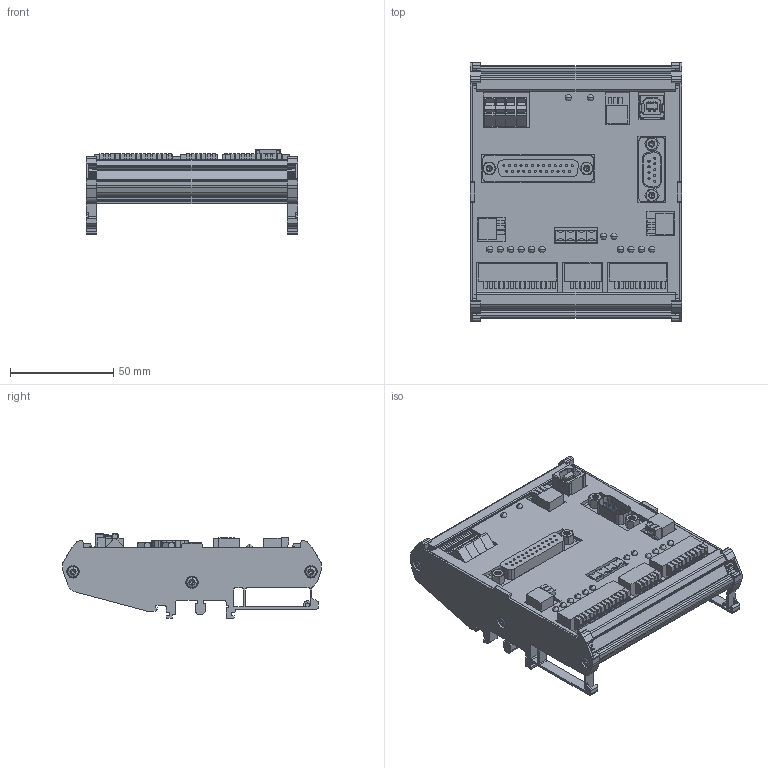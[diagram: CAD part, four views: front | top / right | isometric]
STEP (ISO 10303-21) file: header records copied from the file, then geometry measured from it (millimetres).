
FILE_DESCRIPTION(('STEP AP214'),'1');
FILE_NAME('Z:\toNS\tmp0.step',' ',(' '),(' '),'XStep 1.0',' ',' ');
FILE_SCHEMA(('automotive_design'));
Length unit declared in the file: millimetre
Products named in the file (105): PCB|=>[0:1:1:250]|=>[0:1:1:65];CMS-1206; PCB|=>[0:1:1:175]|=>[0:1:1:196];CON-SUBD09-M; PCB|=>[0:1:1:340]|=>[0:1:1:349];Profilé_PHOENIX_UM100_2952020_equipé_CI_100x100; PCB|=>[0:1:1:171]|=>[0:1:1:163];LED_DIP_3MM-JAUNE; PCB|=>[0:1:1:175]|=>[0:1:1:188];CON-SUBD09-M; PCB|=>[0:1:1:175]|=>[0:1:1:178];CON-SUBD09-M; PCB|=>[0:1:1:175]|=>[0:1:1:190];CON-SUBD09-M; PCB|=>[0:1:1:197]|=>[0:1:1:225];CON-SUBD-25F; PCB|=>[0:1:1:311]|=>[0:1:1:316];SWITCHE_Double_ERG; PCB|=>[0:1:1:173]|=>[0:1:1:163];LED_DIP_3MM-JAUNE; PCB|=>[0:1:1:175]|=>[0:1:1:182];CON-SUBD09-M; PCB|=>[0:1:1:175]|=>[0:1:1:176];CON-SUBD09-M; PCB|=>[0:1:1:172]|=>[0:1:1:163];LED_DIP_3MM-JAUNE; PCB|=>[0:1:1:174]|=>[0:1:1:163];LED_DIP_3MM-JAUNE; PCB|=>[0:1:1:292]|=>[0:1:1:120];SOD123; PCB|=>[0:1:1:311]|=>[0:1:1:317];SWITCHE_Double_ERG; PCB|=>[0:1:1:290]|=>[0:1:1:163];LED_DIP_3MM-JAUNE; PCB|=>[0:1:1:175]|=>[0:1:1:180];CON-SUBD09-M; PCB|=>[0:1:1:175]|=>[0:1:1:184];CON-SUBD09-M; PCB|=>[0:1:1:175]|=>[0:1:1:194];CON-SUBD09-M; PCB|=>[0:1:1:3]|=>[0:1:1:6];CON-WAGO236-1-VERT; PCB|=>[0:1:1:7]|=>[0:1:1:6];CON-WAGO236-1-VERT; PCB|=>[0:1:1:289]|=>[0:1:1:6];CON-WAGO236-1-VERT; PCB|=>[0:1:1:320]|=>[0:1:1:316];SWITCHE_Double_ERG; PCB|=>[0:1:1:288]|=>[0:1:1:6];CON-WAGO236-1-VERT; PCB|=>[0:1:1:169]|=>[0:1:1:163];LED_DIP_3MM-JAUNE; PCB|=>[0:1:1:197]|=>[0:1:1:200];CON-SUBD-25F; PCB|=>[0:1:1:170]|=>[0:1:1:163];LED_DIP_3MM-JAUNE; PCB|=>[0:1:1:166]|=>[0:1:1:163];LED_DIP_3MM-JAUNE; PCB|=>[0:1:1:318]|=>[0:1:1:317];SWITCHE_Double_ERG; PCB|=>[0:1:1:197]|=>[0:1:1:198];CON-SUBD-25F; PCB|=>[0:1:1:175]|=>[0:1:1:192];CON-SUBD09-M; PCB|=>[0:1:1:168]|=>[0:1:1:163];LED_DIP_3MM-JAUNE; PCB|=>[0:1:1:340]|=>[0:1:1:345];Profilé_PHOENIX_UM100_2952020_equipé_CI_100x100; PCB|=>[0:1:1:264]|=>[0:1:1:163];LED_DIP_3MM-JAUNE; PCB|=>[0:1:1:319]|=>[0:1:1:317];SWITCHE_Double_ERG; PCB|=>[0:1:1:320]|=>[0:1:1:317];SWITCHE_Double_ERG; PCB|=>[0:1:1:340]|=>[0:1:1:344];Profilé_PHOENIX_UM100_2952020_equipé_CI_100x100; PCB|=>[0:1:1:318]|=>[0:1:1:316];SWITCHE_Double_ERG; PCB|=>[0:1:1:175]|=>[0:1:1:195];CON-SUBD09-M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
Bounding box: 102.5 x 125.4 x 41.2 mm (x, y, z)
Volume: 103191.9 mm3; surface area: 96326.7 mm2
Topology: 105 solids, 105 shells, 2269 faces, 6076 edges, 4006 vertices
Faces by surface type: plane 1409, cylinder 722, cone 50, sphere 40, bspline 24, torus 24
Entity records: 103394 total; most frequent: CARTESIAN_POINT 21506, ORIENTED_EDGE 12072, DIRECTION 12006, EDGE_CURVE 6036, AXIS2_PLACEMENT_3D 4012, VERTEX_POINT 4006, LINE 3982, VECTOR 3982
